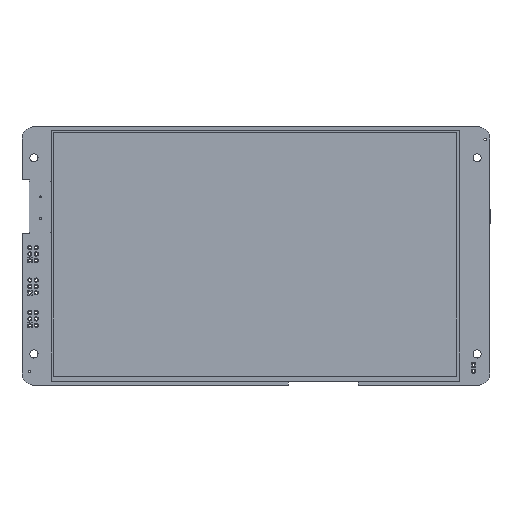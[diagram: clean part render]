
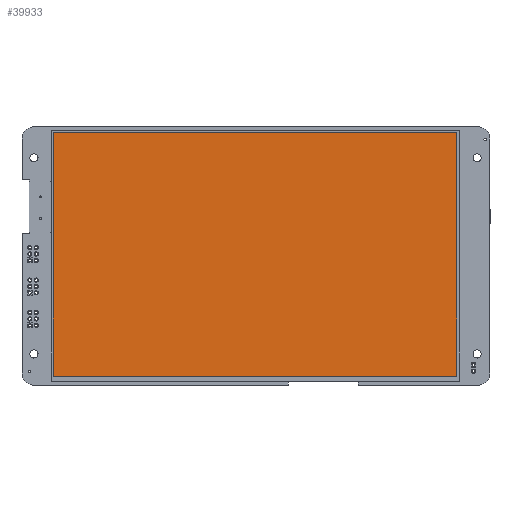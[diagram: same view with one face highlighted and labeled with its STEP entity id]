
A CAD part, front view. The second image highlights one B-rep face of the part: STEP entity #39933.
In plain terms, the highlighted planar face has unit normal (0, -1, 0).
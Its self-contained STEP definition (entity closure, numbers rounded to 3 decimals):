
#1965=PLANE('',#43090);
#4129=FACE_OUTER_BOUND('',#6519,.T.);
#6519=EDGE_LOOP('',(#34200,#34201,#34202,#34203));
#10937=LINE('',#62700,#15754);
#10941=LINE('',#62708,#15758);
#10944=LINE('',#62714,#15761);
#10947=LINE('',#62719,#15764);
#15754=VECTOR('',#51737,10.);
#15758=VECTOR('',#51743,10.);
#15761=VECTOR('',#51748,10.);
#15764=VECTOR('',#51753,10.);
#19757=VERTEX_POINT('',#62698);
#19758=VERTEX_POINT('',#62699);
#19761=VERTEX_POINT('',#62707);
#19763=VERTEX_POINT('',#62713);
#24692=EDGE_CURVE('',#19757,#19758,#10937,.T.);
#24696=EDGE_CURVE('',#19761,#19757,#10941,.T.);
#24699=EDGE_CURVE('',#19763,#19761,#10944,.T.);
#24702=EDGE_CURVE('',#19758,#19763,#10947,.T.);
#34200=ORIENTED_EDGE('',*,*,#24702,.F.);
#34201=ORIENTED_EDGE('',*,*,#24692,.F.);
#34202=ORIENTED_EDGE('',*,*,#24696,.F.);
#34203=ORIENTED_EDGE('',*,*,#24699,.F.);
#39933=ADVANCED_FACE('',(#4129),#1965,.F.);
#43090=AXIS2_PLACEMENT_3D('',#62722,#51757,#51758);
#51737=DIRECTION('',(1.,0.,0.));
#51743=DIRECTION('',(0.,0.,1.));
#51748=DIRECTION('',(-1.,0.,0.));
#51753=DIRECTION('',(0.,0.,-1.));
#51757=DIRECTION('center_axis',(0.,1.,0.));
#51758=DIRECTION('ref_axis',(0.,0.,1.));
#62698=CARTESIAN_POINT('',(0.,0.,0.));
#62699=CARTESIAN_POINT('',(164.,0.,0.));
#62700=CARTESIAN_POINT('',(0.,0.,0.));
#62707=CARTESIAN_POINT('',(0.,0.,-99.2));
#62708=CARTESIAN_POINT('',(0.,0.,-99.2));
#62713=CARTESIAN_POINT('',(164.,0.,-99.2));
#62714=CARTESIAN_POINT('',(164.,0.,-99.2));
#62719=CARTESIAN_POINT('',(164.,0.,0.));
#62722=CARTESIAN_POINT('Origin',(82.,0.,-49.6));
